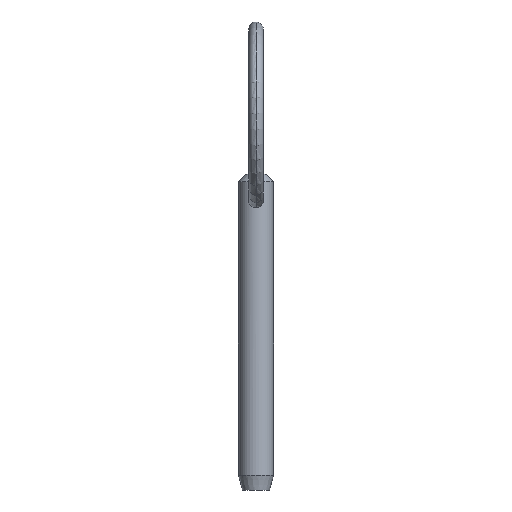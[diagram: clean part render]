
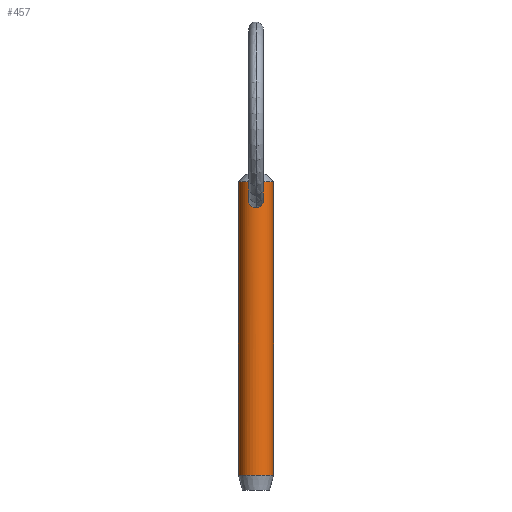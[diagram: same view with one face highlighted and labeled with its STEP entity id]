
A CAD part, front view. The second image highlights one B-rep face of the part: STEP entity #457.
In plain terms, the highlighted cylindrical face has radius 2.38 mm (diameter 4.76 mm), a partial arc.
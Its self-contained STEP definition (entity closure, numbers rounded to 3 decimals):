
#7 = CARTESIAN_POINT ( 'NONE',  ( -2.38, 0., -3.08 ) ) ;
#15 = CARTESIAN_POINT ( 'NONE',  ( 0., -2.38, 33.225 ) ) ;
#18 = CARTESIAN_POINT ( 'NONE',  ( -2.38, 0., 33. ) ) ;
#19 = LINE ( 'NONE', #60, #127 ) ;
#21 = CARTESIAN_POINT ( 'NONE',  ( 0.981, -2.169, 33.964 ) ) ;
#41 = EDGE_CURVE ( 'NONE', #56, #53, #19, .T. ) ;
#43 = ORIENTED_EDGE ( 'NONE', *, *, #306, .T. ) ;
#45 = CARTESIAN_POINT ( 'NONE',  ( 0., -2.38, 35.268 ) ) ;
#48 = ORIENTED_EDGE ( 'NONE', *, *, #253, .T. ) ;
#51 = VECTOR ( 'NONE', #311, 1000. ) ;
#52 = CARTESIAN_POINT ( 'NONE',  ( 0.885, -2.21, 33.717 ) ) ;
#53 = VERTEX_POINT ( 'NONE', #248 ) ;
#54 = CARTESIAN_POINT ( 'NONE',  ( 0.268, -2.368, 35.237 ) ) ;
#56 = VERTEX_POINT ( 'NONE', #57 ) ;
#57 = CARTESIAN_POINT ( 'NONE',  ( 2.38, 0., 36.74 ) ) ;
#60 = CARTESIAN_POINT ( 'NONE',  ( 2.38, 0., 33. ) ) ;
#70 = EDGE_LOOP ( 'NONE', ( #280, #156 ) ) ;
#80 = B_SPLINE_CURVE_WITH_KNOTS ( 'NONE', 3,
 ( #85, #379, #302, #420, #271, #273, #199, #162, #83, #122, #299, #333, #268, #450, #419, #45 ),
 .UNSPECIFIED., .F., .F.,
 ( 4, 2, 2, 2, 2, 2, 2, 4 ),
 ( 0.006, 0.006, 0.007, 0.007, 0.007, 0.008, 0.009, 0.009 ),
 .UNSPECIFIED. ) ;
#83 = CARTESIAN_POINT ( 'NONE',  ( -1.004, -2.158, 34.099 ) ) ;
#85 = CARTESIAN_POINT ( 'NONE',  ( 0., -2.38, 33.225 ) ) ;
#86 = CARTESIAN_POINT ( 'NONE',  ( 0., 0., 36.74 ) ) ;
#91 = CARTESIAN_POINT ( 'NONE',  ( 0.615, -2.301, 35.044 ) ) ;
#106 = VERTEX_POINT ( 'NONE', #7 ) ;
#114 = VERTEX_POINT ( 'NONE', #144 ) ;
#115 = CARTESIAN_POINT ( 'NONE',  ( -2.38, 0., 36.74 ) ) ;
#122 = CARTESIAN_POINT ( 'NONE',  ( -0.991, -2.164, 34.501 ) ) ;
#123 = CARTESIAN_POINT ( 'NONE',  ( 0., 0., -3.08 ) ) ;
#124 = CARTESIAN_POINT ( 'NONE',  ( 0.508, -2.328, 35.124 ) ) ;
#125 = CARTESIAN_POINT ( 'NONE',  ( 0.996, -2.162, 34.364 ) ) ;
#127 = VECTOR ( 'NONE', #212, 1000. ) ;
#144 = CARTESIAN_POINT ( 'NONE',  ( 0., -2.38, 35.268 ) ) ;
#155 = AXIS2_PLACEMENT_3D ( 'NONE', #86, #231, #375 ) ;
#156 = ORIENTED_EDGE ( 'NONE', *, *, #218, .T. ) ;
#162 = CARTESIAN_POINT ( 'NONE',  ( -0.982, -2.169, 33.965 ) ) ;
#167 = DIRECTION ( 'NONE',  ( -1., 0., 0. ) ) ;
#190 = CYLINDRICAL_SURFACE ( 'NONE', #455, 2.38 ) ;
#192 = VERTEX_POINT ( 'NONE', #115 ) ;
#199 = CARTESIAN_POINT ( 'NONE',  ( -0.885, -2.21, 33.717 ) ) ;
#205 = CARTESIAN_POINT ( 'NONE',  ( 0.865, -2.218, 34.74 ) ) ;
#210 = CARTESIAN_POINT ( 'NONE',  ( 0.134, -2.38, 35.268 ) ) ;
#212 = DIRECTION ( 'NONE',  ( 0., 0., -1. ) ) ;
#215 = CIRCLE ( 'NONE', #348, 2.38 ) ;
#218 = EDGE_CURVE ( 'NONE', #238, #114, #80, .T. ) ;
#231 = DIRECTION ( 'NONE',  ( 0., 0., -1. ) ) ;
#238 = VERTEX_POINT ( 'NONE', #335 ) ;
#240 = CARTESIAN_POINT ( 'NONE',  ( 0.268, -2.368, 33.251 ) ) ;
#243 = CARTESIAN_POINT ( 'NONE',  ( 0.133, -2.38, 33.225 ) ) ;
#248 = CARTESIAN_POINT ( 'NONE',  ( 2.38, 0., -3.08 ) ) ;
#253 = EDGE_CURVE ( 'NONE', #56, #192, #319, .T. ) ;
#268 = CARTESIAN_POINT ( 'NONE',  ( -0.505, -2.329, 35.126 ) ) ;
#271 = CARTESIAN_POINT ( 'NONE',  ( -0.626, -2.298, 33.422 ) ) ;
#273 = CARTESIAN_POINT ( 'NONE',  ( -0.811, -2.24, 33.606 ) ) ;
#280 = ORIENTED_EDGE ( 'NONE', *, *, #327, .T. ) ;
#282 = DIRECTION ( 'NONE',  ( 0., 0., -1. ) ) ;
#299 = CARTESIAN_POINT ( 'NONE',  ( -0.88, -2.219, 34.76 ) ) ;
#302 = CARTESIAN_POINT ( 'NONE',  ( -0.268, -2.368, 33.251 ) ) ;
#304 = CARTESIAN_POINT ( 'NONE',  ( 0.811, -2.24, 33.606 ) ) ;
#306 = EDGE_CURVE ( 'NONE', #192, #106, #362, .T. ) ;
#311 = DIRECTION ( 'NONE',  ( 0., 0., -1. ) ) ;
#313 = CARTESIAN_POINT ( 'NONE',  ( 0.793, -2.246, 34.852 ) ) ;
#318 = FACE_OUTER_BOUND ( 'NONE', #346, .T. ) ;
#319 = CIRCLE ( 'NONE', #155, 2.38 ) ;
#327 = EDGE_CURVE ( 'NONE', #114, #238, #345, .T. ) ;
#333 = CARTESIAN_POINT ( 'NONE',  ( -0.613, -2.302, 35.046 ) ) ;
#335 = CARTESIAN_POINT ( 'NONE',  ( 0., -2.38, 33.225 ) ) ;
#340 = EDGE_CURVE ( 'NONE', #106, #53, #215, .T. ) ;
#341 = CARTESIAN_POINT ( 'NONE',  ( 0., 0., 33. ) ) ;
#343 = CARTESIAN_POINT ( 'NONE',  ( 1.003, -2.158, 34.099 ) ) ;
#344 = CARTESIAN_POINT ( 'NONE',  ( 0., -2.38, 35.268 ) ) ;
#345 = B_SPLINE_CURVE_WITH_KNOTS ( 'NONE', 3,
 ( #344, #210, #54, #124, #91, #313, #205, #393, #125, #343, #21, #52, #304, #391, #456, #240, #243, #15 ),
 .UNSPECIFIED., .F., .F.,
 ( 4, 2, 2, 2, 2, 2, 2, 2, 4 ),
 ( 0.003, 0.003, 0.003, 0.004, 0.004, 0.005, 0.005, 0.005, 0.006 ),
 .UNSPECIFIED. ) ;
#346 = EDGE_LOOP ( 'NONE', ( #402, #48, #43, #380 ) ) ;
#348 = AXIS2_PLACEMENT_3D ( 'NONE', #123, #461, #167 ) ;
#362 = LINE ( 'NONE', #18, #51 ) ;
#367 = FACE_BOUND ( 'NONE', #70, .T. ) ;
#375 = DIRECTION ( 'NONE',  ( 1., 0., 0. ) ) ;
#379 = CARTESIAN_POINT ( 'NONE',  ( -0.133, -2.38, 33.225 ) ) ;
#380 = ORIENTED_EDGE ( 'NONE', *, *, #340, .T. ) ;
#391 = CARTESIAN_POINT ( 'NONE',  ( 0.625, -2.299, 33.421 ) ) ;
#393 = CARTESIAN_POINT ( 'NONE',  ( 0.966, -2.176, 34.497 ) ) ;
#402 = ORIENTED_EDGE ( 'NONE', *, *, #41, .F. ) ;
#419 = CARTESIAN_POINT ( 'NONE',  ( -0.134, -2.38, 35.268 ) ) ;
#420 = CARTESIAN_POINT ( 'NONE',  ( -0.514, -2.327, 33.349 ) ) ;
#436 = DIRECTION ( 'NONE',  ( -1., 0., 0. ) ) ;
#450 = CARTESIAN_POINT ( 'NONE',  ( -0.267, -2.368, 35.237 ) ) ;
#455 = AXIS2_PLACEMENT_3D ( 'NONE', #341, #282, #436 ) ;
#456 = CARTESIAN_POINT ( 'NONE',  ( 0.513, -2.327, 33.348 ) ) ;
#457 = ADVANCED_FACE ( 'NONE', ( #318, #367 ), #190, .T. ) ;
#461 = DIRECTION ( 'NONE',  ( 0., 0., 1. ) ) ;
